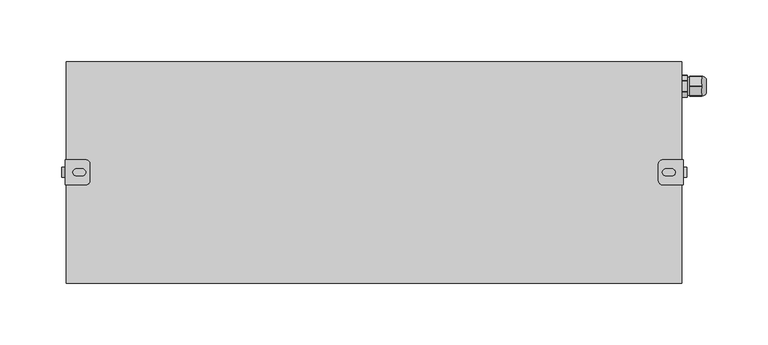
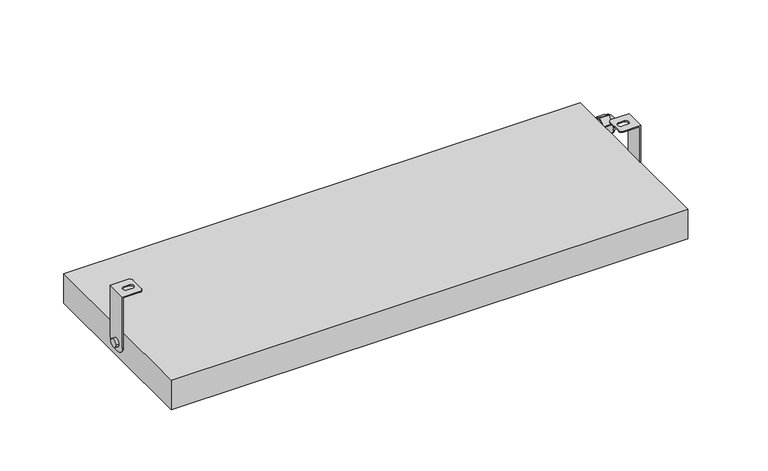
"""IFC4 building model written with IfcOpenShell, lengths in millimetres: light fixture geometry, GENILED_Светильник светодиодный_Titan Advanced : Titan Advanced 500x180x30 40Вт IP66 Матовое закаленное стекло."""

from ifc_helpers import new_model, si_unit, point, frame, frame_2d, origin, origin_with_axes, place, context, project, spatial, polyline, circle_curve, ellipse_curve, trimmed, segment, composite_curve, outline, extrude, source, transform, mapped, element, save
from ifc_brep_helpers import plane_surface, cylinder_surface, revolved_surface, advanced_brep


def light_fixture_c53e545b(model_context):
    return source(origin(), model_context, "Body", "SolidModel", [
        advanced_brep(
        [(-234.0, 10.0, 67.0), (-251.0, 10.0, 67.0), (-251.0, -10.0, 67.0), (-234.0, -10.0, 67.0), (-231.0, -7.0, 67.0), (-231.0, 7.0, 67.0), (-237.0, 2.75, 67.0), (-237.0, -2.75, 67.0), (-242.0, -2.75, 67.0), (-242.0, 2.75, 67.0), (-234.0, -10.0, 66.0), (-250.0, -10.0, 66.0), (-250.0, 10.0, 66.0), (-234.0, 10.0, 66.0), (-231.0, 7.0, 66.0), (-231.0, -7.0, 66.0), (-237.0, 2.75, 66.0), (-242.0, 2.75, 66.0), (-242.0, -2.75, 66.0), (-237.0, -2.75, 66.0), (-251.0, -10.0, 15.0), (-250.0, -10.0, 15.0), (-251.0, 10.0, 15.0), (-251.0, 2.0, 7.0), (-251.0, -2.0, 7.0), (-251.0, 4.0, 15.0), (-251.0, -4.0, 15.0), (-250.0, 10.0, 15.0), (-250.0, -2.0, 7.0), (-250.0, 2.0, 7.0), (-254.0, -4.0, 15.0), (-254.0, 4.0, 15.0)],
        [
            (0, 1),
            (1, 2),
            (2, 3),
            (3, 4, circle_curve(frame((-234.0, -7.0, 67.0), z_axis=(0.0, 0.0, 1.0), x_axis=(-1.0, 0.0, 0.0)), 3.0)),
            (4, 5),
            (5, 0, circle_curve(frame((-234.0, 7.0, 67.0), z_axis=(0.0, 0.0, 1.0), x_axis=(-1.0, 0.0, 0.0)), 3.0)),
            (6, 7, circle_curve(frame((-237.0, 0.0, 67.0), z_axis=(0.0, 0.0, -1.0), x_axis=(-1.0, 0.0, 0.0)), 2.75)),
            (7, 8),
            (8, 9, circle_curve(frame((-242.0, 0.0, 67.0), z_axis=(0.0, 0.0, -1.0), x_axis=(-1.0, 0.0, 0.0)), 2.75)),
            (9, 6),
            (10, 11),
            (11, 12),
            (12, 13),
            (13, 14, circle_curve(frame((-234.0, 7.0, 66.0), z_axis=(0.0, 0.0, -1.0), x_axis=(-1.0, 0.0, 0.0)), 3.0)),
            (14, 15),
            (15, 10, circle_curve(frame((-234.0, -7.0, 66.0), z_axis=(0.0, 0.0, -1.0), x_axis=(-1.0, 0.0, 0.0)), 3.0)),
            (16, 17),
            (17, 18, circle_curve(frame((-242.0, 0.0, 66.0), z_axis=(0.0, 0.0, 1.0), x_axis=(-1.0, 0.0, 0.0)), 2.75)),
            (18, 19),
            (19, 16, circle_curve(frame((-237.0, 0.0, 66.0), z_axis=(0.0, 0.0, 1.0), x_axis=(-1.0, 0.0, 0.0)), 2.75)),
            (5, 14),
            (13, 0),
            (4, 15),
            (3, 10),
            (2, 20),
            (20, 21),
            (21, 11),
            (1, 22),
            (22, 23, circle_curve(frame((-251.0, 2.0, 15.0), z_axis=(-1.0, 0.0, 0.0), x_axis=(0.0, 1.0, 0.0)), 8.0)),
            (23, 24),
            (24, 20, circle_curve(frame((-251.0, -2.0, 15.0), z_axis=(-1.0, 0.0, 0.0), x_axis=(0.0, 1.0, 0.0)), 8.0)),
            (25, 26, circle_curve(frame((-251.0, 0.0, 15.0), z_axis=(1.0, 0.0, 0.0), x_axis=(0.0, 1.0, 0.0)), 4.0)),
            (26, 25, circle_curve(frame((-251.0, 0.0, 15.0), z_axis=(1.0, 0.0, 0.0), x_axis=(0.0, 1.0, 0.0)), 4.0)),
            (12, 27),
            (27, 22),
            (9, 17),
            (16, 6),
            (8, 18),
            (7, 19),
            (21, 28, circle_curve(frame((-250.0, -2.0, 15.0), z_axis=(1.0, 0.0, 0.0), x_axis=(0.0, 1.0, 0.0)), 8.0)),
            (28, 29),
            (29, 27, circle_curve(frame((-250.0, 2.0, 15.0), z_axis=(1.0, 0.0, 0.0), x_axis=(0.0, 1.0, 0.0)), 8.0)),
            (24, 28),
            (23, 29),
            (30, 31, circle_curve(frame((-254.0, 0.0, 15.0), z_axis=(-1.0, 0.0, 0.0), x_axis=(0.0, 1.0, 0.0)), 4.0)),
            (31, 30, circle_curve(frame((-254.0, 0.0, 15.0), z_axis=(-1.0, 0.0, 0.0), x_axis=(0.0, 1.0, 0.0)), 4.0)),
            (31, 25),
            (26, 30),
        ],
        [
            plane_surface(frame((-237.0, 7.0, 67.0), z_axis=(0.0, 0.0, 1.0), x_axis=(0.0, 1.0, 0.0))),
            plane_surface(frame((-237.0, 7.0, 66.0), z_axis=(0.0, 0.0, -1.0), x_axis=(0.0, -1.0, 0.0))),
            cylinder_surface(frame((-234.0, 7.0, 66.0), z_axis=(0.0, 0.0, 1.0), x_axis=(-1.0, 0.0, 0.0)), 3.0),
            plane_surface(frame((-231.0, 7.0, 67.0), z_axis=(1.0, 0.0, 0.0), x_axis=(0.0, 0.0, -1.0))),
            cylinder_surface(frame((-234.0, -7.0, 66.0), z_axis=(0.0, 0.0, 1.0), x_axis=(-1.0, 0.0, 0.0)), 3.0),
            plane_surface(frame((-234.0, -10.0, 67.0), z_axis=(0.0, -1.0, 0.0), x_axis=(0.0, 0.0, -1.0))),
            plane_surface(frame((-251.0, -10.0, 67.0), z_axis=(-1.0, 0.0, 0.0), x_axis=(0.0, 0.0, -1.0))),
            plane_surface(frame((-251.0, 10.0, 67.0), z_axis=(0.0, 1.0, 0.0), x_axis=(0.0, 0.0, -1.0))),
            plane_surface(frame((-237.0, 2.75, 67.0), z_axis=(0.0, -1.0, 0.0), x_axis=(0.0, 0.0, -1.0))),
            revolved_surface(polyline([(-244.75, 0.0, 66.0), (-244.75, 0.0, 67.0)]), (-242.0, 0.0, 15.0), (0.0, 0.0, -1.0)),
            plane_surface(frame((-242.0, -2.75, 67.0), z_axis=(0.0, 1.0, 0.0), x_axis=(0.0, 0.0, -1.0))),
            revolved_surface(polyline([(-239.75, 0.0, 66.0), (-239.75, 0.0, 67.0)]), (-237.0, 0.0, 15.0), (0.0, 0.0, -1.0)),
            plane_surface(frame((-250.0, -10.0, 67.0), z_axis=(1.0, 0.0, 0.0), x_axis=(0.0, 1.0, 0.0))),
            cylinder_surface(frame((-250.0, -2.0, 15.0), z_axis=(-1.0, 0.0, 0.0), x_axis=(0.0, 1.0, 0.0)), 8.0),
            plane_surface(frame((-251.0, -2.0, 7.0), z_axis=(0.0, 0.0, -1.0), x_axis=(1.0, 0.0, 0.0))),
            cylinder_surface(frame((-250.0, 2.0, 15.0), z_axis=(-1.0, 0.0, 0.0), x_axis=(0.0, 1.0, 0.0)), 8.0),
            plane_surface(frame((-254.0, 4.0, 15.0), z_axis=(-1.0, 0.0, 0.0), x_axis=(0.0, 0.0, 1.0))),
            cylinder_surface(frame((-251.0, 0.0, 15.0), z_axis=(-1.0, 0.0, 0.0), x_axis=(0.0, 1.0, 0.0)), 4.0),
        ],
        [
            (0, [[1, 2, 3, 4, 5, 6], [7, 8, 9, 10]]),
            (1, [[11, 12, 13, 14, 15, 16], [17, 18, 19, 20]]),
            (2, [[21, -14, 22, -6]]),
            (3, [[23, -15, -21, -5]]),
            (4, [[24, -16, -23, -4]]),
            (5, [[-3, 25, 26, 27, -11, -24]]),
            (6, [[28, 29, 30, 31, -25, -2], [32, 33]]),
            (7, [[-13, 34, 35, -28, -1, -22]]),
            (8, [[36, -17, 37, -10]]),
            (9, [[38, -18, -36, -9]]),
            (10, [[39, -19, -38, -8]]),
            (11, [[-37, -20, -39, -7]]),
            (12, [[-34, -12, -27, 40, 41, 42]]),
            (13, [[43, -40, -26, -31]]),
            (14, [[44, -41, -43, -30]]),
            (15, [[-35, -42, -44, -29]]),
            (16, [[45, 46]]),
            (17, [[47, -33, 48, -46]]),
            (17, [[-48, -32, -47, -45]]),
        ],
    ),
        advanced_brep(
        [(234.0, 10.0, 67.0), (231.0, 7.0, 67.0), (231.0, -7.0, 67.0), (234.0, -10.0, 67.0), (251.0, -10.0, 67.0), (251.0, 10.0, 67.0), (237.0, 2.75, 67.0), (242.0, 2.75, 67.0), (242.0, -2.75, 67.0), (237.0, -2.75, 67.0), (234.0, -10.0, 66.0), (231.0, -7.0, 66.0), (231.0, 7.0, 66.0), (234.0, 10.0, 66.0), (250.0, 10.0, 66.0), (250.0, -10.0, 66.0), (237.0, 2.75, 66.0), (237.0, -2.75, 66.0), (242.0, -2.75, 66.0), (242.0, 2.75, 66.0), (250.0, -10.0, 15.0), (251.0, -10.0, 15.0), (251.0, -2.0, 7.0), (251.0, 2.0, 7.0), (251.0, 10.0, 15.0), (251.0, 4.0, 15.0), (251.0, -4.0, 15.0), (250.0, 10.0, 15.0), (250.0, 2.0, 7.0), (250.0, -2.0, 7.0), (254.0, -4.0, 15.0), (254.0, 4.0, 15.0)],
        [
            (0, 1, circle_curve(frame((234.0, 7.0, 67.0), z_axis=(0.0, 0.0, 1.0), x_axis=(1.0, 0.0, 0.0)), 3.0)),
            (1, 2),
            (2, 3, circle_curve(frame((234.0, -7.0, 67.0), z_axis=(0.0, 0.0, 1.0), x_axis=(1.0, 0.0, 0.0)), 3.0)),
            (3, 4),
            (4, 5),
            (5, 0),
            (6, 7),
            (7, 8, circle_curve(frame((242.0, 0.0, 67.0), z_axis=(0.0, 0.0, -1.0), x_axis=(1.0, 0.0, 0.0)), 2.75)),
            (8, 9),
            (9, 6, circle_curve(frame((237.0, 0.0, 67.0), z_axis=(0.0, 0.0, -1.0), x_axis=(1.0, 0.0, 0.0)), 2.75)),
            (10, 11, circle_curve(frame((234.0, -7.0, 66.0), z_axis=(0.0, 0.0, -1.0), x_axis=(1.0, 0.0, 0.0)), 3.0)),
            (11, 12),
            (12, 13, circle_curve(frame((234.0, 7.0, 66.0), z_axis=(0.0, 0.0, -1.0), x_axis=(1.0, 0.0, 0.0)), 3.0)),
            (13, 14),
            (14, 15),
            (15, 10),
            (16, 17, circle_curve(frame((237.0, 0.0, 66.0), z_axis=(0.0, 0.0, 1.0), x_axis=(1.0, 0.0, 0.0)), 2.75)),
            (17, 18),
            (18, 19, circle_curve(frame((242.0, 0.0, 66.0), z_axis=(0.0, 0.0, 1.0), x_axis=(1.0, 0.0, 0.0)), 2.75)),
            (19, 16),
            (0, 13),
            (12, 1),
            (11, 2),
            (10, 3),
            (15, 20),
            (20, 21),
            (21, 4),
            (21, 22, circle_curve(frame((251.0, -2.0, 15.0), z_axis=(1.0, 0.0, 0.0), x_axis=(0.0, 1.0, 0.0)), 8.0)),
            (22, 23),
            (23, 24, circle_curve(frame((251.0, 2.0, 15.0), z_axis=(1.0, 0.0, 0.0), x_axis=(0.0, 1.0, 0.0)), 8.0)),
            (24, 5),
            (25, 26, circle_curve(frame((251.0, 0.0, 15.0), z_axis=(-1.0, 0.0, 0.0), x_axis=(0.0, 1.0, 0.0)), 4.0)),
            (26, 25, circle_curve(frame((251.0, 0.0, 15.0), z_axis=(-1.0, 0.0, 0.0), x_axis=(0.0, 1.0, 0.0)), 4.0)),
            (24, 27),
            (27, 14),
            (6, 16),
            (19, 7),
            (18, 8),
            (17, 9),
            (27, 28, circle_curve(frame((250.0, 2.0, 15.0), z_axis=(-1.0, 0.0, 0.0), x_axis=(0.0, 1.0, 0.0)), 8.0)),
            (28, 29),
            (29, 20, circle_curve(frame((250.0, -2.0, 15.0), z_axis=(-1.0, 0.0, 0.0), x_axis=(0.0, 1.0, 0.0)), 8.0)),
            (29, 22),
            (28, 23),
            (30, 31, circle_curve(frame((254.0, 0.0, 15.0), z_axis=(1.0, 0.0, 0.0), x_axis=(0.0, 1.0, 0.0)), 4.0)),
            (31, 30, circle_curve(frame((254.0, 0.0, 15.0), z_axis=(1.0, 0.0, 0.0), x_axis=(0.0, 1.0, 0.0)), 4.0)),
            (30, 26),
            (25, 31),
        ],
        [
            plane_surface(frame((237.0, 7.0, 67.0), z_axis=(0.0, 0.0, 1.0), x_axis=(0.0, 1.0, 0.0))),
            plane_surface(frame((237.0, 7.0, 66.0), z_axis=(0.0, 0.0, -1.0), x_axis=(0.0, -1.0, 0.0))),
            cylinder_surface(frame((234.0, 7.0, 66.0), z_axis=(0.0, 0.0, 1.0), x_axis=(1.0, 0.0, 0.0)), 3.0),
            plane_surface(frame((231.0, 7.0, 67.0), z_axis=(-1.0, 0.0, 0.0), x_axis=(0.0, 0.0, -1.0))),
            cylinder_surface(frame((234.0, -7.0, 66.0), z_axis=(0.0, 0.0, 1.0), x_axis=(1.0, 0.0, 0.0)), 3.0),
            plane_surface(frame((234.0, -10.0, 67.0), z_axis=(0.0, -1.0, 0.0), x_axis=(0.0, 0.0, -1.0))),
            plane_surface(frame((251.0, -10.0, 67.0), z_axis=(1.0, 0.0, 0.0), x_axis=(0.0, 0.0, -1.0))),
            plane_surface(frame((251.0, 10.0, 67.0), z_axis=(0.0, 1.0, 0.0), x_axis=(0.0, 0.0, -1.0))),
            plane_surface(frame((237.0, 2.75, 67.0), z_axis=(0.0, -1.0, 0.0), x_axis=(0.0, 0.0, -1.0))),
            revolved_surface(polyline([(244.75, 0.0, 66.0), (244.75, 0.0, 67.0)]), (242.0, 0.0, 15.0), (0.0, 0.0, -1.0)),
            plane_surface(frame((242.0, -2.75, 67.0), z_axis=(0.0, 1.0, 0.0), x_axis=(0.0, 0.0, -1.0))),
            revolved_surface(polyline([(239.75, 0.0, 66.0), (239.75, 0.0, 67.0)]), (237.0, 0.0, 15.0), (0.0, 0.0, -1.0)),
            plane_surface(frame((250.0, -10.0, 67.0), z_axis=(-1.0, 0.0, 0.0), x_axis=(0.0, 1.0, 0.0))),
            cylinder_surface(frame((250.0, -2.0, 15.0), z_axis=(1.0, 0.0, 0.0), x_axis=(0.0, 1.0, 0.0)), 8.0),
            plane_surface(frame((251.0, -2.0, 7.0), z_axis=(0.0, 0.0, -1.0), x_axis=(-1.0, 0.0, 0.0))),
            cylinder_surface(frame((250.0, 2.0, 15.0), z_axis=(1.0, 0.0, 0.0), x_axis=(0.0, 1.0, 0.0)), 8.0),
            plane_surface(frame((254.0, 4.0, 15.0), z_axis=(1.0, 0.0, 0.0), x_axis=(0.0, 0.0, 1.0))),
            cylinder_surface(frame((251.0, 0.0, 15.0), z_axis=(1.0, 0.0, 0.0), x_axis=(0.0, 1.0, 0.0)), 4.0),
        ],
        [
            (0, [[1, 2, 3, 4, 5, 6], [7, 8, 9, 10]]),
            (1, [[11, 12, 13, 14, 15, 16], [17, 18, 19, 20]]),
            (2, [[-1, 21, -13, 22]]),
            (3, [[-2, -22, -12, 23]]),
            (4, [[-3, -23, -11, 24]]),
            (5, [[-24, -16, 25, 26, 27, -4]]),
            (6, [[-5, -27, 28, 29, 30, 31], [32, 33]]),
            (7, [[-21, -6, -31, 34, 35, -14]]),
            (8, [[-7, 36, -20, 37]]),
            (9, [[-8, -37, -19, 38]]),
            (10, [[-9, -38, -18, 39]]),
            (11, [[-10, -39, -17, -36]]),
            (12, [[40, 41, 42, -25, -15, -35]]),
            (13, [[-28, -26, -42, 43]]),
            (14, [[-29, -43, -41, 44]]),
            (15, [[-30, -44, -40, -34]]),
            (16, [[45, 46]]),
            (17, [[-45, 47, -32, 48]]),
            (17, [[-46, -48, -33, -47]]),
        ],
    ),
        advanced_brep(
        [(270.0120269, 64.15, 15.0), (270.0120269, 75.85, 15.0), (270.0120269, 73.5, 15.0), (270.0120269, 66.5, 15.0), (266.0120269, 62.0, 15.0), (266.0120269, 66.0, 8.0717968), (266.0120269, 74.0, 8.0717968), (266.0120269, 78.0, 15.0), (266.0120269, 74.0, 21.9282032), (266.0120269, 66.0, 21.9282032), (266.0120269, 73.5, 15.0), (266.0120269, 66.5, 15.0), (266.0120269, 62.0, 10.8768944), (266.0120269, 62.4292858, 10.1333496), (266.0120269, 69.5707142, 6.010244), (266.0120269, 70.4292858, 6.010244), (266.0120269, 77.5707142, 10.1333496), (266.0120269, 78.0, 10.8768944), (266.0120269, 78.0, 19.1231056), (266.0120269, 77.5707142, 19.8666504), (266.0120269, 70.4292858, 23.989756), (266.0120269, 69.5707142, 23.989756), (266.0120269, 62.4292858, 19.8666504), (266.0120269, 62.0, 19.1231056), (256.6, 69.5707142, 6.010244), (256.6, 62.4292858, 10.1333496), (256.6, 62.0, 10.8768944), (256.6, 62.0, 19.1231056), (256.6, 62.4292858, 19.8666504), (256.6, 69.5707142, 23.989756), (256.6, 70.4292858, 23.989756), (256.6, 77.5707142, 19.8666504), (256.6, 78.0, 19.1231056), (256.6, 78.0, 10.8768944), (256.6, 77.5707142, 10.1333496), (256.6, 70.4292858, 6.010244), (256.6, 77.25, 15.0), (256.6, 62.75, 15.0), (254.6, 77.25, 15.0), (254.6, 62.75, 15.0), (254.6, 78.989756, 15.4292858), (254.6, 74.8666504, 22.5707142), (254.6, 74.1231056, 23.0), (254.6, 65.8768944, 23.0), (254.6, 65.1333496, 22.5707142), (254.6, 61.010244, 15.4292858), (254.6, 61.0, 15.0), (254.6, 61.010244, 14.5707142), (254.6, 65.1333496, 7.4292858), (254.6, 65.8768944, 7.0), (254.6, 74.1231056, 7.0), (254.6, 74.8666504, 7.4292858), (254.6, 78.989756, 14.5707142), (254.6, 79.0, 15.0), (250.0, 78.989756, 14.5707142), (250.0, 74.8666504, 7.4292858), (250.0, 74.1231056, 7.0), (250.0, 65.8768944, 7.0), (250.0, 65.1333496, 7.4292858), (250.0, 61.010244, 14.5707142), (250.0, 61.0, 15.0), (250.0, 61.010244, 15.4292858), (250.0, 65.1333496, 22.5707142), (250.0, 65.8768944, 23.0), (250.0, 74.1231056, 23.0), (250.0, 74.8666504, 22.5707142), (250.0, 78.989756, 15.4292858), (250.0, 79.0, 15.0)],
        [
            (0, 1, circle_curve(frame((270.0120269, 70.0, 15.0), z_axis=(1.0, 0.0, 0.0), x_axis=(0.0, 1.0, 0.0)), 5.85)),
            (1, 2),
            (2, 3, circle_curve(frame((270.0120269, 70.0, 15.0), z_axis=(-1.0, 0.0, 0.0), x_axis=(0.0, 1.0, 0.0)), 3.5)),
            (3, 0),
            (1, 0, circle_curve(frame((270.0120269, 70.0, 15.0), z_axis=(1.0, 0.0, 0.0), x_axis=(0.0, 1.0, 0.0)), 5.85)),
            (3, 2, circle_curve(frame((270.0120269, 70.0, 15.0), z_axis=(-1.0, 0.0, 0.0), x_axis=(0.0, 1.0, 0.0)), 3.5)),
            (0, 4, circle_curve(frame((265.6269324, 67.5123851, 15.0), z_axis=(0.0, 0.0, -1.0), x_axis=(0.0, 1.0, 0.0)), 5.5258201)),
            (4, 5, circle_curve(frame((266.0120269, 70.0, 15.0), z_axis=(1.0, 0.0, 0.0), x_axis=(0.0, 1.0, 0.0)), 8.0)),
            (5, 6, circle_curve(frame((266.0120269, 70.0, 15.0), z_axis=(1.0, 0.0, 0.0), x_axis=(0.0, 1.0, 0.0)), 8.0)),
            (6, 7, circle_curve(frame((266.0120269, 70.0, 15.0), z_axis=(1.0, 0.0, 0.0), x_axis=(0.0, 1.0, 0.0)), 8.0)),
            (7, 1, circle_curve(frame((265.6269324, 72.4876149, 15.0), z_axis=(0.0, 0.0, -1.0), x_axis=(0.0, -1.0, 0.0)), 5.5258201)),
            (7, 8, circle_curve(frame((266.0120269, 70.0, 15.0), z_axis=(1.0, 0.0, 0.0), x_axis=(0.0, 1.0, 0.0)), 8.0)),
            (8, 9, circle_curve(frame((266.0120269, 70.0, 15.0), z_axis=(1.0, 0.0, 0.0), x_axis=(0.0, 1.0, 0.0)), 8.0)),
            (9, 4, circle_curve(frame((266.0120269, 70.0, 15.0), z_axis=(1.0, 0.0, 0.0), x_axis=(0.0, 1.0, 0.0)), 8.0)),
            (2, 10),
            (10, 11, circle_curve(frame((266.0120269, 70.0, 15.0), z_axis=(-1.0, 0.0, 0.0), x_axis=(0.0, 1.0, 0.0)), 3.5)),
            (11, 3),
            (11, 10, circle_curve(frame((266.0120269, 70.0, 15.0), z_axis=(-1.0, 0.0, 0.0), x_axis=(0.0, 1.0, 0.0)), 3.5)),
            (4, 12),
            (12, 13, circle_curve(frame((266.0120269, 70.0, 15.0), z_axis=(1.0, 0.0, 0.0), x_axis=(0.0, -1.0, 0.0)), 9.0)),
            (13, 5),
            (5, 14),
            (14, 15, circle_curve(frame((266.0120269, 70.0, 15.0), z_axis=(1.0, 0.0, 0.0), x_axis=(0.0, -1.0, 0.0)), 9.0)),
            (15, 6),
            (6, 16),
            (16, 17, circle_curve(frame((266.0120269, 70.0, 15.0), z_axis=(1.0, 0.0, 0.0), x_axis=(0.0, -1.0, 0.0)), 9.0)),
            (17, 7),
            (7, 18),
            (18, 19, circle_curve(frame((266.0120269, 70.0, 15.0), z_axis=(1.0, 0.0, 0.0), x_axis=(0.0, -1.0, 0.0)), 9.0)),
            (19, 8),
            (8, 20),
            (20, 21, circle_curve(frame((266.0120269, 70.0, 15.0), z_axis=(1.0, 0.0, 0.0), x_axis=(0.0, -1.0, 0.0)), 9.0)),
            (21, 9),
            (9, 22),
            (22, 23, circle_curve(frame((266.0120269, 70.0, 15.0), z_axis=(1.0, 0.0, 0.0), x_axis=(0.0, -1.0, 0.0)), 9.0)),
            (23, 4),
            (24, 25),
            (25, 26, circle_curve(frame((256.6, 70.0, 15.0), z_axis=(-1.0, 0.0, 0.0), x_axis=(0.0, -1.0, 0.0)), 9.0)),
            (26, 27),
            (27, 28, circle_curve(frame((256.6, 70.0, 15.0), z_axis=(-1.0, 0.0, 0.0), x_axis=(0.0, -1.0, 0.0)), 9.0)),
            (28, 29),
            (29, 30, circle_curve(frame((256.6, 70.0, 15.0), z_axis=(-1.0, 0.0, 0.0), x_axis=(0.0, -1.0, 0.0)), 9.0)),
            (30, 31),
            (31, 32, circle_curve(frame((256.6, 70.0, 15.0), z_axis=(-1.0, 0.0, 0.0), x_axis=(0.0, -1.0, 0.0)), 9.0)),
            (32, 33),
            (33, 34, circle_curve(frame((256.6, 70.0, 15.0), z_axis=(-1.0, 0.0, 0.0), x_axis=(0.0, -1.0, 0.0)), 9.0)),
            (34, 35),
            (35, 24, circle_curve(frame((256.6, 70.0, 15.0), z_axis=(-1.0, 0.0, 0.0), x_axis=(0.0, -1.0, 0.0)), 9.0)),
            (36, 37, circle_curve(frame((256.6, 70.0, 15.0), z_axis=(1.0, 0.0, 0.0), x_axis=(0.0, -1.0, 0.0)), 7.25)),
            (37, 36, circle_curve(frame((256.6, 70.0, 15.0), z_axis=(1.0, 0.0, 0.0), x_axis=(0.0, -1.0, 0.0)), 7.25)),
            (15, 35),
            (34, 16),
            (17, 33),
            (32, 18),
            (19, 31),
            (30, 20),
            (21, 29),
            (28, 22),
            (23, 27),
            (26, 12),
            (13, 25),
            (24, 14),
            (36, 38),
            (38, 39, circle_curve(frame((254.6, 70.0, 15.0), z_axis=(1.0, 0.0, 0.0), x_axis=(0.0, -1.0, 0.0)), 7.25)),
            (39, 37),
            (39, 38, circle_curve(frame((254.6, 70.0, 15.0), z_axis=(1.0, 0.0, 0.0), x_axis=(0.0, -1.0, 0.0)), 7.25)),
            (40, 41),
            (41, 42, circle_curve(frame((254.6, 70.0, 15.0), z_axis=(1.0, 0.0, 0.0), x_axis=(0.0, -1.0, 0.0)), 9.0)),
            (42, 43),
            (43, 44, circle_curve(frame((254.6, 70.0, 15.0), z_axis=(1.0, 0.0, 0.0), x_axis=(0.0, -1.0, 0.0)), 9.0)),
            (44, 45),
            (45, 46, circle_curve(frame((254.6, 70.0, 15.0), z_axis=(1.0, 0.0, 0.0), x_axis=(0.0, -1.0, 0.0)), 9.0)),
            (46, 47, circle_curve(frame((254.6, 70.0, 15.0), z_axis=(1.0, 0.0, 0.0), x_axis=(0.0, -1.0, 0.0)), 9.0)),
            (47, 48),
            (48, 49, circle_curve(frame((254.6, 70.0, 15.0), z_axis=(1.0, 0.0, 0.0), x_axis=(0.0, -1.0, 0.0)), 9.0)),
            (49, 50),
            (50, 51, circle_curve(frame((254.6, 70.0, 15.0), z_axis=(1.0, 0.0, 0.0), x_axis=(0.0, -1.0, 0.0)), 9.0)),
            (51, 52),
            (52, 53, circle_curve(frame((254.6, 70.0, 15.0), z_axis=(1.0, 0.0, 0.0), x_axis=(0.0, -1.0, 0.0)), 9.0)),
            (53, 40, circle_curve(frame((254.6, 70.0, 15.0), z_axis=(1.0, 0.0, 0.0), x_axis=(0.0, -1.0, 0.0)), 9.0)),
            (54, 55),
            (55, 56, circle_curve(frame((250.0, 70.0, 15.0), z_axis=(-1.0, 0.0, 0.0), x_axis=(0.0, -1.0, 0.0)), 9.0)),
            (56, 57),
            (57, 58, circle_curve(frame((250.0, 70.0, 15.0), z_axis=(-1.0, 0.0, 0.0), x_axis=(0.0, -1.0, 0.0)), 9.0)),
            (58, 59),
            (59, 60, circle_curve(frame((250.0, 70.0, 15.0), z_axis=(-1.0, 0.0, 0.0), x_axis=(0.0, -1.0, 0.0)), 9.0)),
            (60, 61, circle_curve(frame((250.0, 70.0, 15.0), z_axis=(-1.0, 0.0, 0.0), x_axis=(0.0, -1.0, 0.0)), 9.0)),
            (61, 62),
            (62, 63, circle_curve(frame((250.0, 70.0, 15.0), z_axis=(-1.0, 0.0, 0.0), x_axis=(0.0, -1.0, 0.0)), 9.0)),
            (63, 64),
            (64, 65, circle_curve(frame((250.0, 70.0, 15.0), z_axis=(-1.0, 0.0, 0.0), x_axis=(0.0, -1.0, 0.0)), 9.0)),
            (65, 66),
            (66, 67, circle_curve(frame((250.0, 70.0, 15.0), z_axis=(-1.0, 0.0, 0.0), x_axis=(0.0, -1.0, 0.0)), 9.0)),
            (67, 54, circle_curve(frame((250.0, 70.0, 15.0), z_axis=(-1.0, 0.0, 0.0), x_axis=(0.0, -1.0, 0.0)), 9.0)),
            (40, 66),
            (65, 41),
            (42, 64),
            (63, 43),
            (44, 62),
            (61, 45),
            (47, 59),
            (58, 48),
            (49, 57),
            (56, 50),
            (51, 55),
            (54, 52),
            (67, 53),
            (46, 60),
        ],
        [
            plane_surface(frame((270.0120269, 70.0, 15.0), z_axis=(1.0, 0.0, 0.0), x_axis=(0.0, 1.0, 0.0))),
            revolved_surface(trimmed(ellipse_curve(frame((265.6269324, 72.4876149, 15.0), z_axis=(0.0, 0.0, 1.0), x_axis=(0.0, -1.0, 0.0)), 5.5258201, 5.5258201), [point((270.0120269, 75.85, 15.0))], [point((266.0120269, 78.0, 15.0))], True, "CARTESIAN"), (266.0120269, 70.0, 15.0), (-1.0, 0.0, 0.0)),
            revolved_surface(polyline([(266.0120269, 73.5, 15.0), (270.0120269, 73.5, 15.0)]), (266.0120269, 70.0, 15.0), (-1.0, 0.0, 0.0)),
            plane_surface(frame((266.0120269, 70.0, 5.7623957), z_axis=(1.0000000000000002, 0.0, 0.0), x_axis=(0.0, 0.8660254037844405, 0.49999999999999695))),
            plane_surface(frame((256.6, 70.0, 5.7623957), z_axis=(-1.0000000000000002, 0.0, 0.0), x_axis=(0.0, -0.8660254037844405, -0.49999999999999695))),
            plane_surface(frame((266.0120269, 70.0, 5.7623957), z_axis=(0.0, 0.49999999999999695, -0.8660254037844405), x_axis=(-1.0, 0.0, 0.0))),
            plane_surface(frame((266.0120269, 78.0, 10.3811978), z_axis=(0.0, 1.0, 0.0), x_axis=(-1.0, 0.0, 0.0))),
            plane_surface(frame((266.0120269, 78.0, 19.6188022), z_axis=(0.0, 0.5000000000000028, 0.8660254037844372), x_axis=(-1.0, 0.0, 0.0))),
            plane_surface(frame((266.0120269, 70.0, 24.2376043), z_axis=(0.0, -0.49999999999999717, 0.8660254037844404), x_axis=(-1.0, 0.0, 0.0))),
            plane_surface(frame((266.0120269, 62.0, 19.6188022), z_axis=(0.0, -1.0, 0.0), x_axis=(-1.0, 0.0, 0.0))),
            plane_surface(frame((266.0120269, 62.0, 10.3811978), z_axis=(0.0, -0.5000000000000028, -0.8660254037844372), x_axis=(-1.0, 0.0, 0.0))),
            cylinder_surface(frame((254.6, 70.0, 15.0), z_axis=(1.0, 0.0, 0.0), x_axis=(0.0, -1.0, 0.0)), 7.25),
            plane_surface(frame((254.6, 79.2376043, 15.0), z_axis=(1.0, 0.0, 0.0), x_axis=(0.0, -0.5000000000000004, 0.8660254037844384))),
            plane_surface(frame((250.0, 79.2376043, 15.0), z_axis=(-1.0, 0.0, 0.0), x_axis=(0.0, 0.5000000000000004, -0.8660254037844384))),
            plane_surface(frame((254.6, 79.2376043, 15.0), z_axis=(0.0, 0.8660254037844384, 0.5000000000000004), x_axis=(-1.0, 0.0, 0.0))),
            plane_surface(frame((254.6, 74.6188022, 23.0), z_axis=(0.0, 0.0, 1.0), x_axis=(-1.0, 0.0, 0.0))),
            plane_surface(frame((254.6, 65.3811978, 23.0), z_axis=(0.0, -0.866025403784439, 0.49999999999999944), x_axis=(-1.0, 0.0, 0.0))),
            plane_surface(frame((254.6, 60.7623957, 15.0), z_axis=(0.0, -0.8660254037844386, -0.5000000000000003), x_axis=(-1.0, 0.0, 0.0))),
            plane_surface(frame((254.6, 65.3811978, 7.0), z_axis=(0.0, 0.0, -1.0), x_axis=(-1.0, 0.0, 0.0))),
            plane_surface(frame((254.6, 74.6188022, 7.0), z_axis=(0.0, 0.8660254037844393, -0.49999999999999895), x_axis=(-1.0, 0.0, 0.0))),
            cylinder_surface(frame((250.0, 70.0, 15.0), z_axis=(-1.0, 0.0, 0.0), x_axis=(0.0, -1.0, 0.0)), 9.0),
        ],
        [
            (0, [[1, 2, 3, 4]]),
            (0, [[-2, 5, -4, 6]]),
            (1, [[-1, 7, 8, 9, 10, 11]]),
            (1, [[-5, -11, 12, 13, 14, -7]]),
            (2, [[-3, 15, 16, 17]]),
            (2, [[-6, -17, 18, -15]]),
            (3, [[-8, 19, 20, 21]]),
            (3, [[-9, 22, 23, 24]]),
            (3, [[-10, 25, 26, 27]]),
            (3, [[-12, 28, 29, 30]]),
            (3, [[-13, 31, 32, 33]]),
            (3, [[-14, 34, 35, 36]]),
            (3, [[-16, -18]]),
            (4, [[37, 38, 39, 40, 41, 42, 43, 44, 45, 46, 47, 48], [49, 50]]),
            (5, [[-25, -24, 51, -47, 52]]),
            (6, [[-27, 53, -45, 54, -28]]),
            (7, [[-30, 55, -43, 56, -31]]),
            (8, [[-34, -33, 57, -41, 58]]),
            (9, [[-36, 59, -39, 60, -19]]),
            (10, [[-21, 61, -37, 62, -22]]),
            (11, [[63, 64, 65, -49]]),
            (11, [[-63, -50, -65, 66]]),
            (12, [[67, 68, 69, 70, 71, 72, 73, 74, 75, 76, 77, 78, 79, 80], [-64, -66]]),
            (13, [[81, 82, 83, 84, 85, 86, 87, 88, 89, 90, 91, 92, 93, 94]]),
            (14, [[-67, 95, -92, 96]]),
            (15, [[-69, 97, -90, 98]]),
            (16, [[-71, 99, -88, 100]]),
            (17, [[-74, 101, -85, 102]]),
            (18, [[-76, 103, -83, 104]]),
            (19, [[-78, 105, -81, 106]]),
            (20, [[-20, -60, -38, -61]]),
            (20, [[-23, -62, -48, -51]]),
            (20, [[-26, -52, -46, -53]]),
            (20, [[-75, -102, -84, -103]]),
            (20, [[-77, -104, -82, -105]]),
            (20, [[107, -79, -106, -94]]),
            (20, [[108, -86, -101, -73]]),
            (20, [[-29, -54, -44, -55]]),
            (20, [[-32, -56, -42, -57]]),
            (20, [[-35, -58, -40, -59]]),
            (20, [[-68, -96, -91, -97]]),
            (20, [[-70, -98, -89, -99]]),
            (20, [[-107, -93, -95, -80]]),
            (20, [[-108, -72, -100, -87]]),
        ],
    ),
        advanced_brep(
        [(250.0, 90.0, 30.0), (-250.0, 90.0, 30.0), (-250.0, -90.0, 30.0), (250.0, -90.0, 30.0), (250.0, 90.0, 0.0), (250.0, -90.0, 0.0), (-250.0, -90.0, 0.0), (-250.0, 90.0, 0.0), (220.0, 75.0, 0.0), (-220.0, 75.0, 0.0), (-235.0, 60.0, 0.0), (-235.0, -60.0, 0.0), (-220.0, -75.0, 0.0), (220.0, -75.0, 0.0), (235.0, -60.0, 0.0), (235.0, 60.0, 0.0), (235.0, 60.0, 5.0), (220.0, 75.0, 5.0), (235.0, -60.0, 5.0), (220.0, -75.0, 5.0), (-220.0, -75.0, 5.0), (-235.0, -60.0, 5.0), (-235.0, 60.0, 5.0), (-220.0, 75.0, 5.0)],
        [
            (0, 1),
            (1, 2),
            (2, 3),
            (3, 0),
            (4, 5),
            (5, 6),
            (6, 7),
            (7, 4),
            (8, 9),
            (9, 10, circle_curve(frame((-220.0, 60.0, 0.0), z_axis=(0.0, 0.0, 1.0), x_axis=(1.0, 0.0, 0.0)), 15.0)),
            (10, 11),
            (11, 12, circle_curve(frame((-220.0, -60.0, 0.0), z_axis=(0.0, 0.0, 1.0), x_axis=(1.0, 0.0, 0.0)), 15.0)),
            (12, 13),
            (13, 14, circle_curve(frame((220.0, -60.0, 0.0), z_axis=(0.0, 0.0, 1.0), x_axis=(1.0, 0.0, 0.0)), 15.0)),
            (14, 15),
            (15, 8, circle_curve(frame((220.0, 60.0, 0.0), z_axis=(0.0, 0.0, 1.0), x_axis=(1.0, 0.0, 0.0)), 15.0)),
            (0, 4),
            (7, 1),
            (6, 2),
            (5, 3),
            (15, 16),
            (16, 17, circle_curve(frame((220.0, 60.0, 5.0), z_axis=(0.0, 0.0, 1.0), x_axis=(1.0, 0.0, 0.0)), 15.0)),
            (17, 8),
            (14, 18),
            (18, 16),
            (13, 19),
            (19, 18, circle_curve(frame((220.0, -60.0, 5.0), z_axis=(0.0, 0.0, 1.0), x_axis=(1.0, 0.0, 0.0)), 15.0)),
            (12, 20),
            (20, 19),
            (11, 21),
            (21, 20, circle_curve(frame((-220.0, -60.0, 5.0), z_axis=(0.0, 0.0, 1.0), x_axis=(1.0, 0.0, 0.0)), 15.0)),
            (10, 22),
            (22, 21),
            (9, 23),
            (23, 22, circle_curve(frame((-220.0, 60.0, 5.0), z_axis=(0.0, 0.0, 1.0), x_axis=(1.0, 0.0, 0.0)), 15.0)),
            (17, 23),
        ],
        [
            plane_surface(frame((-250.0, 90.0, 30.0), z_axis=(0.0, 0.0, 1.0), x_axis=(-1.0, 0.0, 0.0))),
            plane_surface(frame((-250.0, 90.0, 0.0), z_axis=(0.0, 0.0, -1.0), x_axis=(1.0, 0.0, 0.0))),
            plane_surface(frame((250.0, 90.0, 30.0), z_axis=(0.0, 1.0, 0.0), x_axis=(0.0, 0.0, -1.0))),
            plane_surface(frame((-250.0, 90.0, 30.0), z_axis=(-1.0, 0.0, 0.0), x_axis=(0.0, 0.0, -1.0))),
            plane_surface(frame((-250.0, -90.0, 30.0), z_axis=(0.0, -1.0, 0.0), x_axis=(0.0, 0.0, -1.0))),
            plane_surface(frame((250.0, -90.0, 30.0), z_axis=(1.0, 0.0, 0.0), x_axis=(0.0, 0.0, -1.0))),
            revolved_surface(polyline([(235.0, 60.0, 0.0), (235.0, 60.0, 5.0)]), (220.0, 60.0, 0.0), (0.0, 0.0, -1.0)),
            plane_surface(frame((235.0, 60.0, 30.0), z_axis=(-1.0, 0.0, 0.0), x_axis=(0.0, 0.0, -1.0))),
            revolved_surface(polyline([(235.0, -60.0, 0.0), (235.0, -60.0, 5.0)]), (220.0, -60.0, 0.0), (0.0, 0.0, -1.0)),
            plane_surface(frame((220.0, -75.0, 30.0), z_axis=(0.0, 1.0, 0.0), x_axis=(0.0, 0.0, -1.0))),
            revolved_surface(polyline([(-205.0, -60.0, 0.0), (-205.0, -60.0, 5.0)]), (-220.0, -60.0, 0.0), (0.0, 0.0, -1.0)),
            plane_surface(frame((-235.0, -60.0, 30.0), z_axis=(1.0, 0.0, 0.0), x_axis=(0.0, 0.0, -1.0))),
            revolved_surface(polyline([(-205.0, 60.0, 0.0), (-205.0, 60.0, 5.0)]), (-220.0, 60.0, 0.0), (0.0, 0.0, -1.0)),
            plane_surface(frame((-220.0, 75.0, 30.0), z_axis=(0.0, -1.0, 0.0), x_axis=(0.0, 0.0, -1.0))),
            plane_surface(frame((-220.0, 75.0, 5.0), z_axis=(0.0, 0.0, -1.0), x_axis=(1.0, 0.0, 0.0))),
        ],
        [
            (0, [[1, 2, 3, 4]]),
            (1, [[5, 6, 7, 8], [9, 10, 11, 12, 13, 14, 15, 16]]),
            (2, [[-1, 17, -8, 18]]),
            (3, [[-2, -18, -7, 19]]),
            (4, [[-3, -19, -6, 20]]),
            (5, [[-4, -20, -5, -17]]),
            (6, [[-16, 21, 22, 23]]),
            (7, [[-15, 24, 25, -21]]),
            (8, [[-14, 26, 27, -24]]),
            (9, [[-13, 28, 29, -26]]),
            (10, [[-12, 30, 31, -28]]),
            (11, [[-11, 32, 33, -30]]),
            (12, [[-10, 34, 35, -32]]),
            (13, [[-9, -23, 36, -34]]),
            (14, [[-22, -25, -27, -29, -31, -33, -35, -36]]),
        ],
    ),
        extrude(outline(composite_curve([segment(trimmed(circle_curve(frame_2d((220.0, 60.0)), 15.0), [point((220.0, 75.0))], [point((235.0, 60.0))], False, "CARTESIAN"), True, "CONTINUOUS"), segment(polyline([(235.0, 60.0), (235.0, -60.0)]), True, "CONTINUOUS"), segment(trimmed(circle_curve(frame_2d((220.0, -60.0)), 15.0), [point((235.0, -60.0))], [point((220.0, -75.0))], False, "CARTESIAN"), True, "CONTINUOUS"), segment(polyline([(220.0, -75.0), (-220.0, -75.0)]), True, "CONTINUOUS"), segment(trimmed(circle_curve(frame_2d((-220.0, -60.0)), 15.0), [point((-220.0, -75.0))], [point((-235.0, -60.0))], False, "CARTESIAN"), True, "CONTINUOUS"), segment(polyline([(-235.0, -60.0), (-235.0, 60.0)]), True, "CONTINUOUS"), segment(trimmed(circle_curve(frame_2d((-220.0, 60.0)), 15.0), [point((-235.0, 60.0))], [point((-220.0, 75.0))], False, "CARTESIAN"), True, "CONTINUOUS"), segment(polyline([(-220.0, 75.0), (220.0, 75.0)]), True, "CONTINUOUS")], self_intersect=False)), origin_with_axes(), (0.0, 0.0, 1.0), 5.0),
    ])


if __name__ == "__main__":
    model = new_model("IFC4")
    model_context = context("Model", 3, world=origin())
    ifc_project = project(units=[si_unit("LENGTHUNIT", "METRE", prefix="MILLI")], contexts=[model_context])
    site = spatial("IfcSite", under=ifc_project)
    building = spatial("IfcBuilding", under=site)
    placement = place(None, origin())
    light_fixture_shape = light_fixture_c53e545b(model_context)
    element("IfcLightFixture", 1, ObjectType="GENILED_Светильник светодиодный_Titan Advanced : Titan Advanced 500x180x30 40Вт IP66 Матовое закаленное стекло", at=placement, inside=building, context=model_context, shape_type="MappedRepresentation", body=[
        mapped(light_fixture_shape, transform((0.0, 0.0, 0.0), x_axis=(1.0, 0.0, 0.0), y_axis=(0.0, 1.0, 0.0), z_axis=(0.0, 0.0, 1.0))),
    ])
    save(model, "model.ifc")
